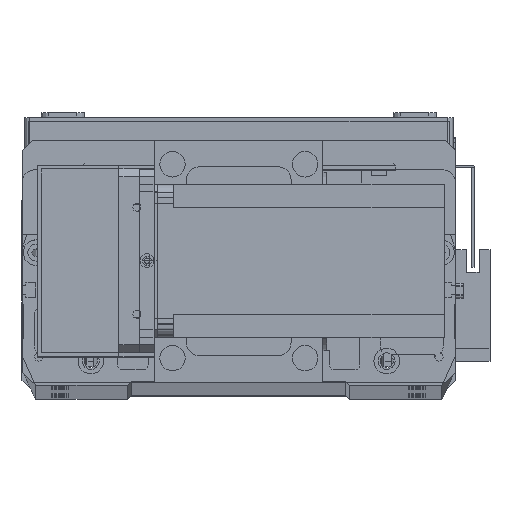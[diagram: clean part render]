
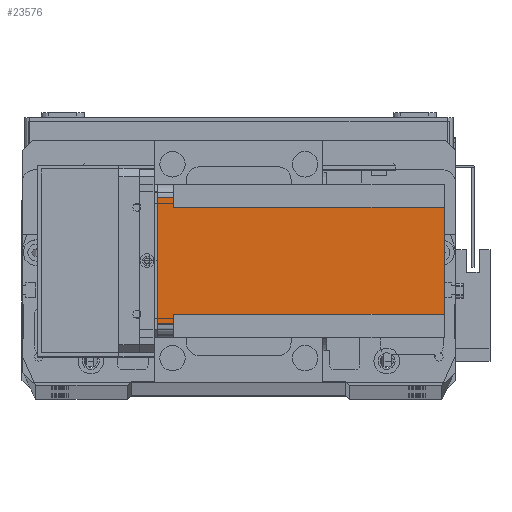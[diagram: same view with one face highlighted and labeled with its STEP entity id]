
A CAD part, top view. The second image highlights one B-rep face of the part: STEP entity #23576.
In plain terms, the highlighted planar face has unit normal (0, 0, 1) as drawn and (-1, 0, 0) by its records, which use the part's own axes.
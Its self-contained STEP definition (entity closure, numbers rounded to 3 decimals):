
#70 = VECTOR ( 'NONE', #4008, 1000. ) ;
#422 = DIRECTION ( 'NONE',  ( 0., -1., 0. ) ) ;
#576 = ORIENTED_EDGE ( 'NONE', *, *, #18604, .F. ) ;
#796 = LINE ( 'NONE', #31801, #28476 ) ;
#925 = LINE ( 'NONE', #33439, #70 ) ;
#991 = LINE ( 'NONE', #22346, #20689 ) ;
#1098 = VERTEX_POINT ( 'NONE', #27095 ) ;
#2201 = ORIENTED_EDGE ( 'NONE', *, *, #10044, .F. ) ;
#2614 = VECTOR ( 'NONE', #14107, 1000. ) ;
#3126 = CARTESIAN_POINT ( 'NONE',  ( 0., 55., 0. ) ) ;
#3245 = CARTESIAN_POINT ( 'NONE',  ( 0., 55., -112.5 ) ) ;
#3583 = DIRECTION ( 'NONE',  ( 0., 0., 1. ) ) ;
#3983 = EDGE_CURVE ( 'NONE', #21663, #10677, #20640, .T. ) ;
#4008 = DIRECTION ( 'NONE',  ( 0., -1., 0. ) ) ;
#4251 = PLANE ( 'NONE',  #15837 ) ;
#6933 = DIRECTION ( 'NONE',  ( -1., 0., 0. ) ) ;
#7451 = VECTOR ( 'NONE', #422, 1000. ) ;
#8391 = CARTESIAN_POINT ( 'NONE',  ( 0., 0., 0. ) ) ;
#10044 = EDGE_CURVE ( 'NONE', #21686, #31315, #32112, .T. ) ;
#10677 = VERTEX_POINT ( 'NONE', #28128 ) ;
#10704 = ORIENTED_EDGE ( 'NONE', *, *, #11121, .T. ) ;
#10733 = VECTOR ( 'NONE', #19239, 1000. ) ;
#11121 = EDGE_CURVE ( 'NONE', #15937, #31315, #24945, .T. ) ;
#11431 = CARTESIAN_POINT ( 'NONE',  ( 0., 9., -6.5 ) ) ;
#14107 = DIRECTION ( 'NONE',  ( 0., 0., -1. ) ) ;
#14262 = CARTESIAN_POINT ( 'NONE',  ( 0., 51., -6.5 ) ) ;
#14812 = VECTOR ( 'NONE', #22006, 1000. ) ;
#15069 = EDGE_CURVE ( 'NONE', #15937, #29646, #19184, .T. ) ;
#15777 = ORIENTED_EDGE ( 'NONE', *, *, #15069, .F. ) ;
#15837 = AXIS2_PLACEMENT_3D ( 'NONE', #20314, #6933, #25699 ) ;
#15937 = VERTEX_POINT ( 'NONE', #3126 ) ;
#16575 = CARTESIAN_POINT ( 'NONE',  ( 0., 60., -6.5 ) ) ;
#16750 = CARTESIAN_POINT ( 'NONE',  ( 0., 0., -6.5 ) ) ;
#16788 = EDGE_LOOP ( 'NONE', ( #17149, #30951, #15777, #10704, #2201, #576, #22993, #32230 ) ) ;
#16800 = CARTESIAN_POINT ( 'NONE',  ( 0., 9., -112.5 ) ) ;
#17149 = ORIENTED_EDGE ( 'NONE', *, *, #26037, .F. ) ;
#18437 = DIRECTION ( 'NONE',  ( 0., 0., 1. ) ) ;
#18604 = EDGE_CURVE ( 'NONE', #1098, #21686, #991, .T. ) ;
#19184 = LINE ( 'NONE', #8391, #7451 ) ;
#19239 = DIRECTION ( 'NONE',  ( 0., 1., 0. ) ) ;
#19288 = DIRECTION ( 'NONE',  ( 0., 0., -1. ) ) ;
#19316 = EDGE_CURVE ( 'NONE', #1098, #10677, #925, .T. ) ;
#20314 = CARTESIAN_POINT ( 'NONE',  ( 0., 0., -112.5 ) ) ;
#20640 = LINE ( 'NONE', #16800, #2614 ) ;
#20689 = VECTOR ( 'NONE', #3583, 1000. ) ;
#21663 = VERTEX_POINT ( 'NONE', #11431 ) ;
#21686 = VERTEX_POINT ( 'NONE', #14262 ) ;
#22006 = DIRECTION ( 'NONE',  ( 0., 1., 0. ) ) ;
#22346 = CARTESIAN_POINT ( 'NONE',  ( 0., 51., -112.5 ) ) ;
#22993 = ORIENTED_EDGE ( 'NONE', *, *, #19316, .T. ) ;
#23168 = CARTESIAN_POINT ( 'NONE',  ( 0., 5., 0. ) ) ;
#23258 = VECTOR ( 'NONE', #19288, 1000. ) ;
#23576 = ADVANCED_FACE ( 'NONE', ( #25379 ), #4251, .T. ) ;
#24945 = LINE ( 'NONE', #3245, #23258 ) ;
#25379 = FACE_OUTER_BOUND ( 'NONE', #16788, .T. ) ;
#25550 = VERTEX_POINT ( 'NONE', #32816 ) ;
#25699 = DIRECTION ( 'NONE',  ( 0., -1., 0. ) ) ;
#26037 = EDGE_CURVE ( 'NONE', #25550, #21663, #30730, .T. ) ;
#27095 = CARTESIAN_POINT ( 'NONE',  ( 0., 51., -112.5 ) ) ;
#28093 = CARTESIAN_POINT ( 'NONE',  ( 0., 55., -6.5 ) ) ;
#28128 = CARTESIAN_POINT ( 'NONE',  ( 0., 9., -112.5 ) ) ;
#28476 = VECTOR ( 'NONE', #18437, 1000. ) ;
#29646 = VERTEX_POINT ( 'NONE', #23168 ) ;
#30730 = LINE ( 'NONE', #16750, #14812 ) ;
#30951 = ORIENTED_EDGE ( 'NONE', *, *, #33977, .T. ) ;
#31315 = VERTEX_POINT ( 'NONE', #28093 ) ;
#31801 = CARTESIAN_POINT ( 'NONE',  ( 0., 5., -112.5 ) ) ;
#32112 = LINE ( 'NONE', #16575, #10733 ) ;
#32230 = ORIENTED_EDGE ( 'NONE', *, *, #3983, .F. ) ;
#32816 = CARTESIAN_POINT ( 'NONE',  ( 0., 5., -6.5 ) ) ;
#33439 = CARTESIAN_POINT ( 'NONE',  ( 0., 0., -112.5 ) ) ;
#33977 = EDGE_CURVE ( 'NONE', #25550, #29646, #796, .T. ) ;
